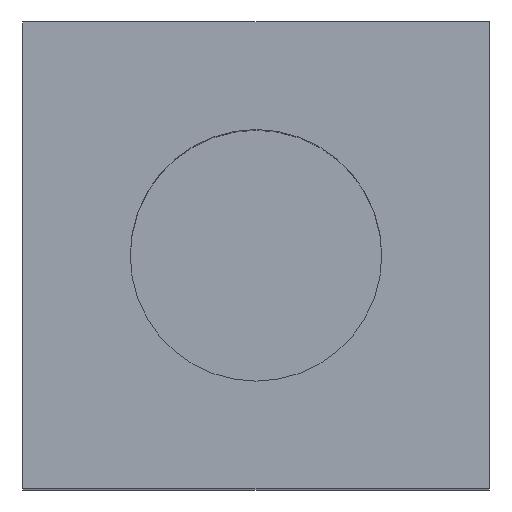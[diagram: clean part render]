
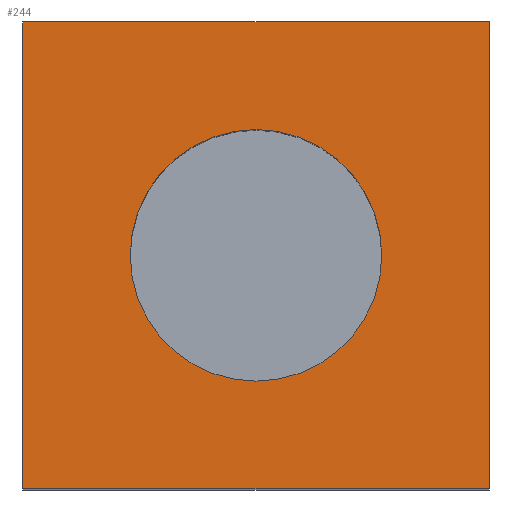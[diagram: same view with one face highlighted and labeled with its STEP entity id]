
A CAD part, top view. The second image highlights one B-rep face of the part: STEP entity #244.
In plain terms, the highlighted planar face has unit normal (0, 0, 1).
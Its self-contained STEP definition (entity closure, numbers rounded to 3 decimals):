
#24 = VERTEX_POINT('',#25);
#25 = CARTESIAN_POINT('',(302.027,3.7,12.916));
#32 = PLANE('',#33);
#33 = AXIS2_PLACEMENT_3D('',#34,#35,#36);
#34 = CARTESIAN_POINT('',(302.027,3.7,5.116));
#35 = DIRECTION('',(1.,0.,-0.));
#36 = DIRECTION('',(0.,0.,1.));
#44 = PLANE('',#45);
#45 = AXIS2_PLACEMENT_3D('',#46,#47,#48);
#46 = CARTESIAN_POINT('',(302.027,3.7,5.116));
#47 = DIRECTION('',(-0.,1.,0.));
#48 = DIRECTION('',(0.,0.,1.));
#85 = VERTEX_POINT('',#86);
#86 = CARTESIAN_POINT('',(302.027,8.3,12.916));
#100 = PLANE('',#101);
#101 = AXIS2_PLACEMENT_3D('',#102,#103,#104);
#102 = CARTESIAN_POINT('',(302.027,8.3,5.116));
#103 = DIRECTION('',(-0.,1.,0.));
#104 = DIRECTION('',(0.,0.,1.));
#112 = EDGE_CURVE('',#24,#85,#113,.T.);
#113 = SURFACE_CURVE('',#114,(#118,#125),.PCURVE_S1.);
#114 = LINE('',#115,#116);
#115 = CARTESIAN_POINT('',(302.027,3.7,12.916));
#116 = VECTOR('',#117,1.);
#117 = DIRECTION('',(-0.,1.,0.));
#118 = PCURVE('',#32,#119);
#119 = DEFINITIONAL_REPRESENTATION('',(#120),#124);
#120 = LINE('',#121,#122);
#121 = CARTESIAN_POINT('',(7.8,0.));
#122 = VECTOR('',#123,1.);
#123 = DIRECTION('',(0.,-1.));
#124 = ( GEOMETRIC_REPRESENTATION_CONTEXT(2) 
PARAMETRIC_REPRESENTATION_CONTEXT() REPRESENTATION_CONTEXT('2D SPACE',''
  ) );
#125 = PCURVE('',#126,#131);
#126 = PLANE('',#127);
#127 = AXIS2_PLACEMENT_3D('',#128,#129,#130);
#128 = CARTESIAN_POINT('',(302.027,3.7,12.916));
#129 = DIRECTION('',(0.,0.,1.));
#130 = DIRECTION('',(1.,0.,-0.));
#131 = DEFINITIONAL_REPRESENTATION('',(#132),#136);
#132 = LINE('',#133,#134);
#133 = CARTESIAN_POINT('',(0.,0.));
#134 = VECTOR('',#135,1.);
#135 = DIRECTION('',(0.,1.));
#136 = ( GEOMETRIC_REPRESENTATION_CONTEXT(2) 
PARAMETRIC_REPRESENTATION_CONTEXT() REPRESENTATION_CONTEXT('2D SPACE',''
  ) );
#165 = EDGE_CURVE('',#24,#166,#168,.T.);
#166 = VERTEX_POINT('',#167);
#167 = CARTESIAN_POINT('',(306.627,3.7,12.916));
#168 = SURFACE_CURVE('',#169,(#173,#180),.PCURVE_S1.);
#169 = LINE('',#170,#171);
#170 = CARTESIAN_POINT('',(302.027,3.7,12.916));
#171 = VECTOR('',#172,1.);
#172 = DIRECTION('',(1.,0.,-0.));
#173 = PCURVE('',#44,#174);
#174 = DEFINITIONAL_REPRESENTATION('',(#175),#179);
#175 = LINE('',#176,#177);
#176 = CARTESIAN_POINT('',(7.8,0.));
#177 = VECTOR('',#178,1.);
#178 = DIRECTION('',(0.,1.));
#179 = ( GEOMETRIC_REPRESENTATION_CONTEXT(2) 
PARAMETRIC_REPRESENTATION_CONTEXT() REPRESENTATION_CONTEXT('2D SPACE',''
  ) );
#180 = PCURVE('',#126,#181);
#181 = DEFINITIONAL_REPRESENTATION('',(#182),#186);
#182 = LINE('',#183,#184);
#183 = CARTESIAN_POINT('',(0.,0.));
#184 = VECTOR('',#185,1.);
#185 = DIRECTION('',(1.,0.));
#186 = ( GEOMETRIC_REPRESENTATION_CONTEXT(2) 
PARAMETRIC_REPRESENTATION_CONTEXT() REPRESENTATION_CONTEXT('2D SPACE',''
  ) );
#202 = PLANE('',#203);
#203 = AXIS2_PLACEMENT_3D('',#204,#205,#206);
#204 = CARTESIAN_POINT('',(306.627,3.7,5.116));
#205 = DIRECTION('',(1.,0.,-0.));
#206 = DIRECTION('',(0.,0.,1.));
#244 = ADVANCED_FACE('',(#245,#293),#126,.T.);
#245 = FACE_BOUND('',#246,.T.);
#246 = EDGE_LOOP('',(#247,#248,#249,#272));
#247 = ORIENTED_EDGE('',*,*,#112,.F.);
#248 = ORIENTED_EDGE('',*,*,#165,.T.);
#249 = ORIENTED_EDGE('',*,*,#250,.T.);
#250 = EDGE_CURVE('',#166,#251,#253,.T.);
#251 = VERTEX_POINT('',#252);
#252 = CARTESIAN_POINT('',(306.627,8.3,12.916));
#253 = SURFACE_CURVE('',#254,(#258,#265),.PCURVE_S1.);
#254 = LINE('',#255,#256);
#255 = CARTESIAN_POINT('',(306.627,3.7,12.916));
#256 = VECTOR('',#257,1.);
#257 = DIRECTION('',(-0.,1.,0.));
#258 = PCURVE('',#126,#259);
#259 = DEFINITIONAL_REPRESENTATION('',(#260),#264);
#260 = LINE('',#261,#262);
#261 = CARTESIAN_POINT('',(4.6,0.));
#262 = VECTOR('',#263,1.);
#263 = DIRECTION('',(0.,1.));
#264 = ( GEOMETRIC_REPRESENTATION_CONTEXT(2) 
PARAMETRIC_REPRESENTATION_CONTEXT() REPRESENTATION_CONTEXT('2D SPACE',''
  ) );
#265 = PCURVE('',#202,#266);
#266 = DEFINITIONAL_REPRESENTATION('',(#267),#271);
#267 = LINE('',#268,#269);
#268 = CARTESIAN_POINT('',(7.8,0.));
#269 = VECTOR('',#270,1.);
#270 = DIRECTION('',(0.,-1.));
#271 = ( GEOMETRIC_REPRESENTATION_CONTEXT(2) 
PARAMETRIC_REPRESENTATION_CONTEXT() REPRESENTATION_CONTEXT('2D SPACE',''
  ) );
#272 = ORIENTED_EDGE('',*,*,#273,.F.);
#273 = EDGE_CURVE('',#85,#251,#274,.T.);
#274 = SURFACE_CURVE('',#275,(#279,#286),.PCURVE_S1.);
#275 = LINE('',#276,#277);
#276 = CARTESIAN_POINT('',(302.027,8.3,12.916));
#277 = VECTOR('',#278,1.);
#278 = DIRECTION('',(1.,0.,-0.));
#279 = PCURVE('',#126,#280);
#280 = DEFINITIONAL_REPRESENTATION('',(#281),#285);
#281 = LINE('',#282,#283);
#282 = CARTESIAN_POINT('',(0.,4.6));
#283 = VECTOR('',#284,1.);
#284 = DIRECTION('',(1.,0.));
#285 = ( GEOMETRIC_REPRESENTATION_CONTEXT(2) 
PARAMETRIC_REPRESENTATION_CONTEXT() REPRESENTATION_CONTEXT('2D SPACE',''
  ) );
#286 = PCURVE('',#100,#287);
#287 = DEFINITIONAL_REPRESENTATION('',(#288),#292);
#288 = LINE('',#289,#290);
#289 = CARTESIAN_POINT('',(7.8,0.));
#290 = VECTOR('',#291,1.);
#291 = DIRECTION('',(0.,1.));
#292 = ( GEOMETRIC_REPRESENTATION_CONTEXT(2) 
PARAMETRIC_REPRESENTATION_CONTEXT() REPRESENTATION_CONTEXT('2D SPACE',''
  ) );
#293 = FACE_BOUND('',#294,.T.);
#294 = EDGE_LOOP('',(#295));
#295 = ORIENTED_EDGE('',*,*,#296,.F.);
#296 = EDGE_CURVE('',#297,#297,#299,.T.);
#297 = VERTEX_POINT('',#298);
#298 = CARTESIAN_POINT('',(305.567,6.,12.916));
#299 = SURFACE_CURVE('',#300,(#305,#312),.PCURVE_S1.);
#300 = CIRCLE('',#301,1.24);
#301 = AXIS2_PLACEMENT_3D('',#302,#303,#304);
#302 = CARTESIAN_POINT('',(304.327,6.,12.916));
#303 = DIRECTION('',(0.,0.,1.));
#304 = DIRECTION('',(1.,0.,-0.));
#305 = PCURVE('',#126,#306);
#306 = DEFINITIONAL_REPRESENTATION('',(#307),#311);
#307 = CIRCLE('',#308,1.24);
#308 = AXIS2_PLACEMENT_2D('',#309,#310);
#309 = CARTESIAN_POINT('',(2.3,2.3));
#310 = DIRECTION('',(1.,0.));
#311 = ( GEOMETRIC_REPRESENTATION_CONTEXT(2) 
PARAMETRIC_REPRESENTATION_CONTEXT() REPRESENTATION_CONTEXT('2D SPACE',''
  ) );
#312 = PCURVE('',#313,#318);
#313 = CYLINDRICAL_SURFACE('',#314,1.24);
#314 = AXIS2_PLACEMENT_3D('',#315,#316,#317);
#315 = CARTESIAN_POINT('',(304.327,6.,8.816));
#316 = DIRECTION('',(0.,0.,1.));
#317 = DIRECTION('',(1.,0.,-0.));
#318 = DEFINITIONAL_REPRESENTATION('',(#319),#323);
#319 = LINE('',#320,#321);
#320 = CARTESIAN_POINT('',(0.,4.1));
#321 = VECTOR('',#322,1.);
#322 = DIRECTION('',(1.,0.));
#323 = ( GEOMETRIC_REPRESENTATION_CONTEXT(2) 
PARAMETRIC_REPRESENTATION_CONTEXT() REPRESENTATION_CONTEXT('2D SPACE',''
  ) );
